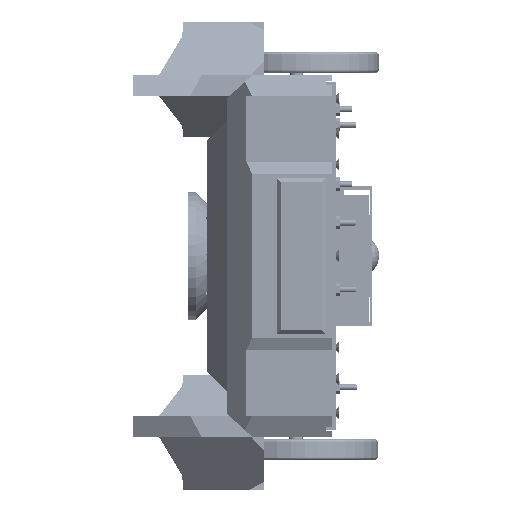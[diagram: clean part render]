
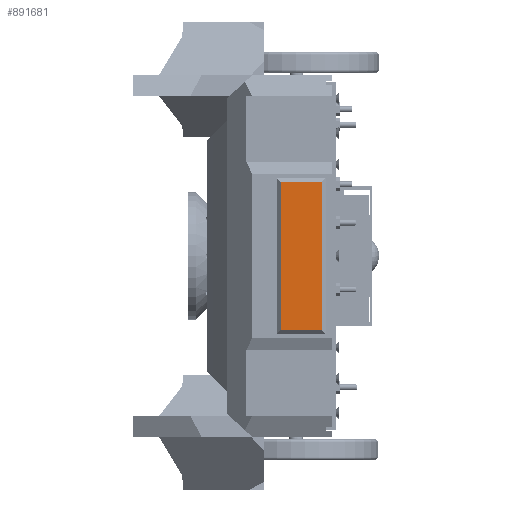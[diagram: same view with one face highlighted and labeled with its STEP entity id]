
A CAD part, left-side view. The second image highlights one B-rep face of the part: STEP entity #891681.
In plain terms, the highlighted planar face has unit normal (-1, 0, 0).
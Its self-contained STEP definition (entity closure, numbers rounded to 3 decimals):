
#891412 = PLANE('',#891413);
#891413 = AXIS2_PLACEMENT_3D('',#891414,#891415,#891416);
#891414 = CARTESIAN_POINT('',(-92.,23.,38.));
#891415 = DIRECTION('',(0.707,-0.707,0.));
#891416 = DIRECTION('',(0.,0.,-1.));
#891466 = PLANE('',#891467);
#891467 = AXIS2_PLACEMENT_3D('',#891468,#891469,#891470);
#891468 = CARTESIAN_POINT('',(-92.,0.,-37.));
#891469 = DIRECTION('',(0.707,0.,0.707));
#891470 = DIRECTION('',(0.,-1.,0.));
#891498 = PLANE('',#891499);
#891499 = AXIS2_PLACEMENT_3D('',#891500,#891501,#891502);
#891500 = CARTESIAN_POINT('',(-92.,1.,38.));
#891501 = DIRECTION('',(-0.707,-0.707,0.));
#891502 = DIRECTION('',(-0.,0.,-1.));
#891536 = VERTEX_POINT('',#891537);
#891537 = CARTESIAN_POINT('',(-93.,2.,36.));
#891551 = PLANE('',#891552);
#891552 = AXIS2_PLACEMENT_3D('',#891553,#891554,#891555);
#891553 = CARTESIAN_POINT('',(-92.,0.,37.));
#891554 = DIRECTION('',(-0.707,0.,0.707));
#891555 = DIRECTION('',(0.,-1.,0.));
#891565 = VERTEX_POINT('',#891566);
#891566 = CARTESIAN_POINT('',(-93.,2.,-36.));
#891587 = EDGE_CURVE('',#891536,#891565,#891588,.T.);
#891588 = SURFACE_CURVE('',#891589,(#891593,#891600),.PCURVE_S1.);
#891589 = LINE('',#891590,#891591);
#891590 = CARTESIAN_POINT('',(-93.,2.,36.));
#891591 = VECTOR('',#891592,1.);
#891592 = DIRECTION('',(0.,0.,-1.));
#891593 = PCURVE('',#891498,#891594);
#891594 = DEFINITIONAL_REPRESENTATION('',(#891595),#891599);
#891595 = LINE('',#891596,#891597);
#891596 = CARTESIAN_POINT('',(2.,-1.414));
#891597 = VECTOR('',#891598,1.);
#891598 = DIRECTION('',(1.,0.));
#891599 = ( GEOMETRIC_REPRESENTATION_CONTEXT(2) 
PARAMETRIC_REPRESENTATION_CONTEXT() REPRESENTATION_CONTEXT('2D SPACE',''
  ) );
#891600 = PCURVE('',#891601,#891606);
#891601 = PLANE('',#891602);
#891602 = AXIS2_PLACEMENT_3D('',#891603,#891604,#891605);
#891603 = CARTESIAN_POINT('',(-93.,0.,38.));
#891604 = DIRECTION('',(1.,0.,0.));
#891605 = DIRECTION('',(-0.,1.,0.));
#891606 = DEFINITIONAL_REPRESENTATION('',(#891607),#891611);
#891607 = LINE('',#891608,#891609);
#891608 = CARTESIAN_POINT('',(2.,-2.));
#891609 = VECTOR('',#891610,1.);
#891610 = DIRECTION('',(0.,-1.));
#891611 = ( GEOMETRIC_REPRESENTATION_CONTEXT(2) 
PARAMETRIC_REPRESENTATION_CONTEXT() REPRESENTATION_CONTEXT('2D SPACE',''
  ) );
#891617 = EDGE_CURVE('',#891618,#891536,#891620,.T.);
#891618 = VERTEX_POINT('',#891619);
#891619 = CARTESIAN_POINT('',(-93.,22.,36.));
#891620 = SURFACE_CURVE('',#891621,(#891625,#891632),.PCURVE_S1.);
#891621 = LINE('',#891622,#891623);
#891622 = CARTESIAN_POINT('',(-93.,22.,36.));
#891623 = VECTOR('',#891624,1.);
#891624 = DIRECTION('',(0.,-1.,0.));
#891625 = PCURVE('',#891551,#891626);
#891626 = DEFINITIONAL_REPRESENTATION('',(#891627),#891631);
#891627 = LINE('',#891628,#891629);
#891628 = CARTESIAN_POINT('',(-22.,-1.414));
#891629 = VECTOR('',#891630,1.);
#891630 = DIRECTION('',(1.,0.));
#891631 = ( GEOMETRIC_REPRESENTATION_CONTEXT(2) 
PARAMETRIC_REPRESENTATION_CONTEXT() REPRESENTATION_CONTEXT('2D SPACE',''
  ) );
#891632 = PCURVE('',#891601,#891633);
#891633 = DEFINITIONAL_REPRESENTATION('',(#891634),#891638);
#891634 = LINE('',#891635,#891636);
#891635 = CARTESIAN_POINT('',(22.,-2.));
#891636 = VECTOR('',#891637,1.);
#891637 = DIRECTION('',(-1.,0.));
#891638 = ( GEOMETRIC_REPRESENTATION_CONTEXT(2) 
PARAMETRIC_REPRESENTATION_CONTEXT() REPRESENTATION_CONTEXT('2D SPACE',''
  ) );
#891681 = ADVANCED_FACE('',(#891682),#891601,.F.);
#891682 = FACE_BOUND('',#891683,.F.);
#891683 = EDGE_LOOP('',(#891684,#891685,#891686,#891709));
#891684 = ORIENTED_EDGE('',*,*,#891617,.T.);
#891685 = ORIENTED_EDGE('',*,*,#891587,.T.);
#891686 = ORIENTED_EDGE('',*,*,#891687,.T.);
#891687 = EDGE_CURVE('',#891565,#891688,#891690,.T.);
#891688 = VERTEX_POINT('',#891689);
#891689 = CARTESIAN_POINT('',(-93.,22.,-36.));
#891690 = SURFACE_CURVE('',#891691,(#891695,#891702),.PCURVE_S1.);
#891691 = LINE('',#891692,#891693);
#891692 = CARTESIAN_POINT('',(-93.,2.,-36.));
#891693 = VECTOR('',#891694,1.);
#891694 = DIRECTION('',(0.,1.,0.));
#891695 = PCURVE('',#891601,#891696);
#891696 = DEFINITIONAL_REPRESENTATION('',(#891697),#891701);
#891697 = LINE('',#891698,#891699);
#891698 = CARTESIAN_POINT('',(2.,-74.));
#891699 = VECTOR('',#891700,1.);
#891700 = DIRECTION('',(1.,0.));
#891701 = ( GEOMETRIC_REPRESENTATION_CONTEXT(2) 
PARAMETRIC_REPRESENTATION_CONTEXT() REPRESENTATION_CONTEXT('2D SPACE',''
  ) );
#891702 = PCURVE('',#891466,#891703);
#891703 = DEFINITIONAL_REPRESENTATION('',(#891704),#891708);
#891704 = LINE('',#891705,#891706);
#891705 = CARTESIAN_POINT('',(-2.,-1.414));
#891706 = VECTOR('',#891707,1.);
#891707 = DIRECTION('',(-1.,0.));
#891708 = ( GEOMETRIC_REPRESENTATION_CONTEXT(2) 
PARAMETRIC_REPRESENTATION_CONTEXT() REPRESENTATION_CONTEXT('2D SPACE',''
  ) );
#891709 = ORIENTED_EDGE('',*,*,#891710,.T.);
#891710 = EDGE_CURVE('',#891688,#891618,#891711,.T.);
#891711 = SURFACE_CURVE('',#891712,(#891716,#891723),.PCURVE_S1.);
#891712 = LINE('',#891713,#891714);
#891713 = CARTESIAN_POINT('',(-93.,22.,-36.));
#891714 = VECTOR('',#891715,1.);
#891715 = DIRECTION('',(0.,0.,1.));
#891716 = PCURVE('',#891601,#891717);
#891717 = DEFINITIONAL_REPRESENTATION('',(#891718),#891722);
#891718 = LINE('',#891719,#891720);
#891719 = CARTESIAN_POINT('',(22.,-74.));
#891720 = VECTOR('',#891721,1.);
#891721 = DIRECTION('',(0.,1.));
#891722 = ( GEOMETRIC_REPRESENTATION_CONTEXT(2) 
PARAMETRIC_REPRESENTATION_CONTEXT() REPRESENTATION_CONTEXT('2D SPACE',''
  ) );
#891723 = PCURVE('',#891412,#891724);
#891724 = DEFINITIONAL_REPRESENTATION('',(#891725),#891729);
#891725 = LINE('',#891726,#891727);
#891726 = CARTESIAN_POINT('',(74.,-1.414));
#891727 = VECTOR('',#891728,1.);
#891728 = DIRECTION('',(-1.,0.));
#891729 = ( GEOMETRIC_REPRESENTATION_CONTEXT(2) 
PARAMETRIC_REPRESENTATION_CONTEXT() REPRESENTATION_CONTEXT('2D SPACE',''
  ) );
